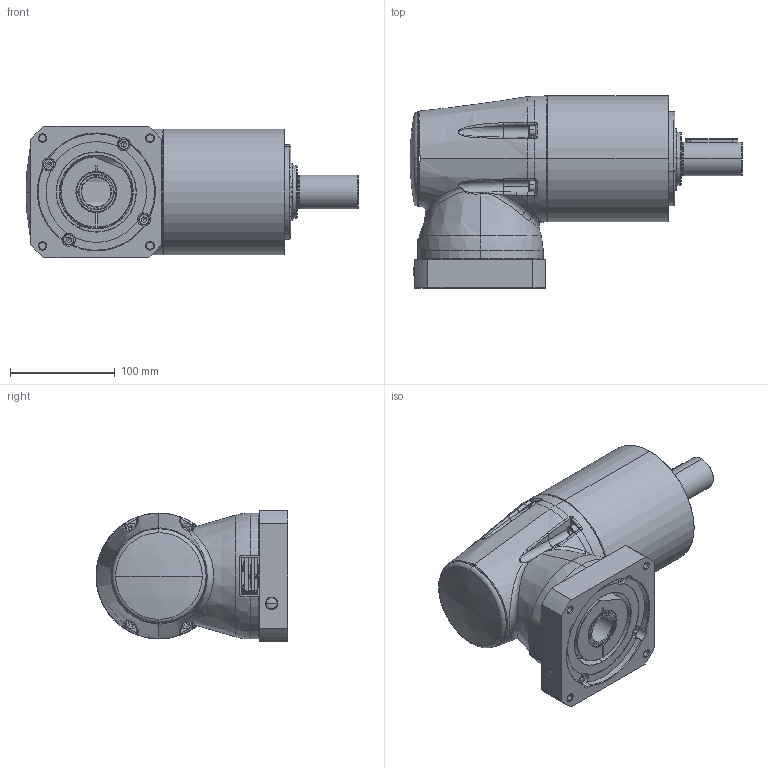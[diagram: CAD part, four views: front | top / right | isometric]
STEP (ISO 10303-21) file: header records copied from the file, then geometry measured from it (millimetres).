
FILE_DESCRIPTION (( 'STEP AP214' ), '1' );
FILE_NAME ('RL-030-RRR-FFF-MMM-S-LL-XXX-AXX-0000.STEP', '2019-10-30T15:06:56', ( '' ), ( '' ), 'SwSTEP 2.0', 'SolidWorks 2019', '' );
FILE_SCHEMA (( 'AUTOMOTIVE_DESIGN' ));
Length unit declared in the file: millimetre
Products named in the file (1): RL-030-RRR-FFF-MMM-S-LL-XXX-AXX-0000
Bounding box: 316.5 x 183 x 125 mm (x, y, z)
Surface area: 206492.4 mm2 (no closed solid volume)
Topology: 0 solids, 71 shells, 504 faces, 2429 edges, 1962 vertices
Faces by surface type: plane 174, cylinder 128, cone 86, torus 56, bspline 56, sphere 4
Entity records: 38599 total; most frequent: CARTESIAN_POINT 15343, ORIENTED_EDGE 3330, DIRECTION 3144, EDGE_CURVE 2413, VERTEX_POINT 1962, LINE 1128, VECTOR 1128, AXIS2_PLACEMENT_3D 1008
